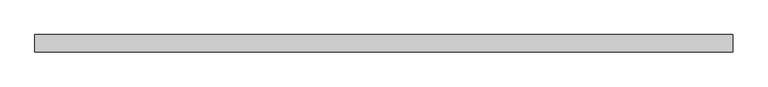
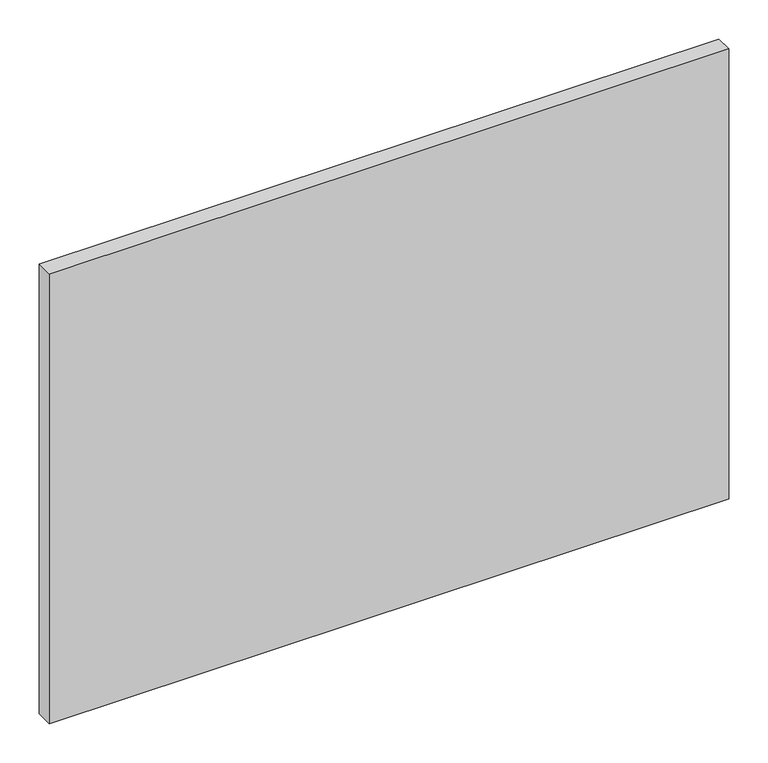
"""IFC4 building model written with IfcOpenShell, lengths in millimetres: plate geometry, Системная панель : С остеклением."""

from ifc_helpers import new_model, si_unit, origin, origin_with_axes, place, context, project, spatial, polyline, outline, extrude, source, transform, mapped, element, save


def plate_28c25544(model_context):
    return source(origin(), model_context, "Body", "SweptSolid", [
        extrude(outline(polyline([(500.0, 24.5), (-500.0, 24.5), (-500.0, 49.5), (500.0, 49.5), (500.0, 24.5)])), origin_with_axes(), (0.0, 0.0, 1.0), 700.0),
    ])


if __name__ == "__main__":
    model = new_model("IFC4")
    model_context = context("Model", 3, world=origin())
    ifc_project = project(units=[si_unit("LENGTHUNIT", "METRE", prefix="MILLI")], contexts=[model_context])
    site = spatial("IfcSite", under=ifc_project)
    building = spatial("IfcBuilding", under=site)
    placement = place(None, origin())
    plate_shape = plate_28c25544(model_context)
    element("IfcPlate", 1, ObjectType="Системная панель : С остеклением", at=placement, inside=building, context=model_context, shape_type="MappedRepresentation", body=[
        mapped(plate_shape, transform((0.0, 0.0, 0.0), x_axis=(1.0, 0.0, 0.0), y_axis=(0.0, 1.0, 0.0), z_axis=(0.0, 0.0, 1.0))),
    ])
    save(model, "model.ifc")
